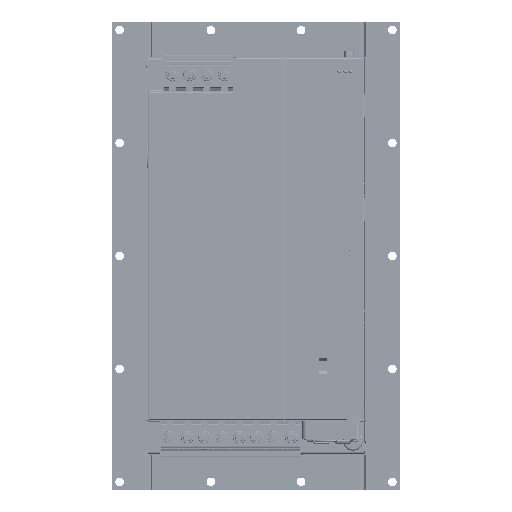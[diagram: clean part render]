
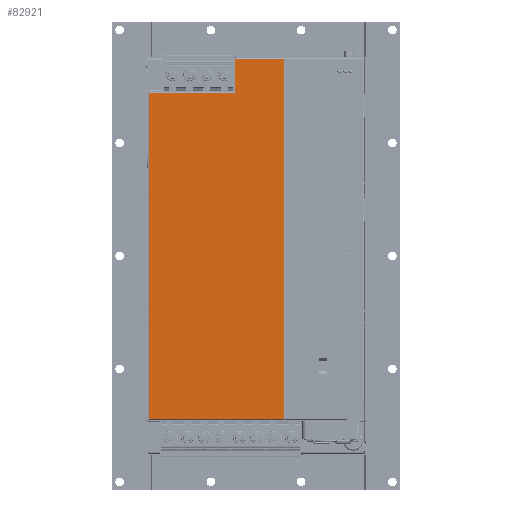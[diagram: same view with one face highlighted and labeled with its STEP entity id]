
A CAD part, front view. The second image highlights one B-rep face of the part: STEP entity #82921.
In plain terms, the highlighted planar face has unit normal (0, -1, 0) as drawn and (0, 1, 0) by its records, which use the part's own axes.
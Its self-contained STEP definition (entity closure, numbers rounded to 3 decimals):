
#15956 = CARTESIAN_POINT ( 'NONE',  ( 22.8, 20., 171.25 ) ) ;
#15960 = DIRECTION ( 'NONE',  ( 0., 0., 1. ) ) ;
#16019 = CARTESIAN_POINT ( 'NONE',  ( -93.55, 20., 171.25 ) ) ;
#16025 = DIRECTION ( 'NONE',  ( 0., 0., 1. ) ) ;
#16132 = DIRECTION ( 'NONE',  ( 0., 0., 1. ) ) ;
#16140 = CARTESIAN_POINT ( 'NONE',  ( 22.8, 20., -140.75 ) ) ;
#16206 = CARTESIAN_POINT ( 'NONE',  ( -18.2, 20., -141.25 ) ) ;
#16224 = DIRECTION ( 'NONE',  ( 0., 0., 1. ) ) ;
#16557 = DIRECTION ( 'NONE',  ( 0., 0., -1. ) ) ;
#16573 = CARTESIAN_POINT ( 'NONE',  ( 23., 20., 171.25 ) ) ;
#16701 = CARTESIAN_POINT ( 'NONE',  ( 24., 20., -111.25 ) ) ;
#16707 = DIRECTION ( 'NONE',  ( -1., 0., 0. ) ) ;
#16711 = CARTESIAN_POINT ( 'NONE',  ( -93.75, 20., 171.25 ) ) ;
#16716 = DIRECTION ( 'NONE',  ( 0., 0., 1. ) ) ;
#16719 = CARTESIAN_POINT ( 'NONE',  ( 24., 20., 170.25 ) ) ;
#16723 = DIRECTION ( 'NONE',  ( 1., 0., 0. ) ) ;
#16726 = CARTESIAN_POINT ( 'NONE',  ( 24., 20., 170.05 ) ) ;
#16731 = DIRECTION ( 'NONE',  ( 1., 0., 0. ) ) ;
#16737 = CARTESIAN_POINT ( 'NONE',  ( 24., 20., -140.55 ) ) ;
#16742 = DIRECTION ( 'NONE',  ( -1., 0., 0. ) ) ;
#16756 = CARTESIAN_POINT ( 'NONE',  ( -19.4, 20., 171.25 ) ) ;
#16772 = CARTESIAN_POINT ( 'NONE',  ( 24., 20., -140.75 ) ) ;
#16776 = DIRECTION ( 'NONE',  ( -1., 0., 0. ) ) ;
#16785 = CARTESIAN_POINT ( 'NONE',  ( 24., 20., -140.55 ) ) ;
#16790 = DIRECTION ( 'NONE',  ( -1., 0., 0. ) ) ;
#16798 = DIRECTION ( 'NONE',  ( 0., 0., 1. ) ) ;
#16803 = CARTESIAN_POINT ( 'NONE',  ( 24., 20., -111.05 ) ) ;
#16808 = DIRECTION ( 'NONE',  ( -1., 0., 0. ) ) ;
#30458 = AXIS2_PLACEMENT_3D ( 'NONE', #139575, #139607, #139617 ) ;
#80077 = EDGE_CURVE ( 'NONE', #186733, #186644, #98299, .T. ) ;
#80087 = EDGE_CURVE ( 'NONE', #185644, #185340, #98311, .T. ) ;
#80112 = EDGE_CURVE ( 'NONE', #186355, #186891, #98350, .T. ) ;
#80123 = EDGE_CURVE ( 'NONE', #186211, #185518, #98358, .T. ) ;
#80243 = EDGE_CURVE ( 'NONE', #185299, #186138, #98508, .T. ) ;
#80246 = EDGE_CURVE ( 'NONE', #153332, #186878, #98510, .T. ) ;
#80249 = EDGE_CURVE ( 'NONE', #185340, #186644, #98513, .T. ) ;
#80251 = EDGE_CURVE ( 'NONE', #186733, #186732, #98516, .T. ) ;
#80257 = EDGE_CURVE ( 'NONE', #186732, #186140, #98523, .T. ) ;
#80263 = EDGE_CURVE ( 'NONE', #186140, #186891, #98527, .T. ) ;
#80265 = EDGE_CURVE ( 'NONE', #186355, #186211, #98529, .T. ) ;
#80272 = EDGE_CURVE ( 'NONE', #185518, #185943, #98535, .T. ) ;
#80277 = EDGE_CURVE ( 'NONE', #185943, #186174, #98460, .T. ) ;
#80281 = EDGE_CURVE ( 'NONE', #186174, #153333, #98542, .T. ) ;
#82921 = ADVANCED_FACE ( 'NONE', ( #150829 ), #139612, .T. ) ;
#86076 = CARTESIAN_POINT ( 'NONE',  ( -20.4, 20., -111.25 ) ) ;
#86091 = CARTESIAN_POINT ( 'NONE',  ( -93.55, 20., 170.25 ) ) ;
#86183 = CARTESIAN_POINT ( 'NONE',  ( -18.2, 20., -140.55 ) ) ;
#86247 = CARTESIAN_POINT ( 'NONE',  ( -93.55, 20., 170.05 ) ) ;
#86428 = CARTESIAN_POINT ( 'NONE',  ( -19.4, 20., -140.55 ) ) ;
#86530 = CARTESIAN_POINT ( 'NONE',  ( -93.55, 20., -111.25 ) ) ;
#86532 = CARTESIAN_POINT ( 'NONE',  ( 23., 20., -140.55 ) ) ;
#86559 = CARTESIAN_POINT ( 'NONE',  ( -19.4, 20., -111.05 ) ) ;
#86588 = CARTESIAN_POINT ( 'NONE',  ( -18.2, 20., -140.75 ) ) ;
#86699 = CARTESIAN_POINT ( 'NONE',  ( 22.8, 20., -140.75 ) ) ;
#98299 = LINE ( 'NONE', #15956, #98304 ) ;
#98304 = VECTOR ( 'NONE', #15960, 1000. ) ;
#98311 = LINE ( 'NONE', #16019, #98315 ) ;
#98315 = VECTOR ( 'NONE', #16025, 1000. ) ;
#98350 = LINE ( 'NONE', #16140, #98353 ) ;
#98353 = VECTOR ( 'NONE', #16132, 1000. ) ;
#98358 = LINE ( 'NONE', #16206, #98363 ) ;
#98363 = VECTOR ( 'NONE', #16224, 1000. ) ;
#98460 = LINE ( 'NONE', #16756, #98543 ) ;
#98508 = LINE ( 'NONE', #16701, #98512 ) ;
#98510 = LINE ( 'NONE', #16711, #98515 ) ;
#98512 = VECTOR ( 'NONE', #16707, 1000. ) ;
#98513 = LINE ( 'NONE', #16719, #98518 ) ;
#98515 = VECTOR ( 'NONE', #16716, 1000. ) ;
#98516 = LINE ( 'NONE', #16726, #98521 ) ;
#98518 = VECTOR ( 'NONE', #16723, 1000. ) ;
#98521 = VECTOR ( 'NONE', #16731, 1000. ) ;
#98523 = LINE ( 'NONE', #16573, #98526 ) ;
#98526 = VECTOR ( 'NONE', #16557, 1000. ) ;
#98527 = LINE ( 'NONE', #16737, #98531 ) ;
#98529 = LINE ( 'NONE', #16772, #98534 ) ;
#98531 = VECTOR ( 'NONE', #16742, 1000. ) ;
#98534 = VECTOR ( 'NONE', #16776, 1000. ) ;
#98535 = LINE ( 'NONE', #16785, #98539 ) ;
#98539 = VECTOR ( 'NONE', #16790, 1000. ) ;
#98542 = LINE ( 'NONE', #16803, #98546 ) ;
#98543 = VECTOR ( 'NONE', #16798, 1000. ) ;
#98546 = VECTOR ( 'NONE', #16808, 1000. ) ;
#116600 = LINE ( 'NONE', #193506, #116616 ) ;
#116616 = VECTOR ( 'NONE', #193496, 1000. ) ;
#116634 = LINE ( 'NONE', #193540, #116642 ) ;
#116642 = VECTOR ( 'NONE', #193562, 1000. ) ;
#116744 = LINE ( 'NONE', #193701, #116753 ) ;
#116750 = LINE ( 'NONE', #193746, #116764 ) ;
#116753 = VECTOR ( 'NONE', #193730, 1000. ) ;
#116764 = VECTOR ( 'NONE', #193735, 1000. ) ;
#119478 = CARTESIAN_POINT ( 'NONE',  ( -93.75, 20., -111.05 ) ) ;
#119525 = CARTESIAN_POINT ( 'NONE',  ( -20.4, 20., -111.05 ) ) ;
#139575 = CARTESIAN_POINT ( 'NONE',  ( 24., 20., 171.25 ) ) ;
#139607 = DIRECTION ( 'NONE',  ( 0., 1., 0. ) ) ;
#139612 = PLANE ( 'NONE',  #30458 ) ;
#139617 = DIRECTION ( 'NONE',  ( 0., 0., 1. ) ) ;
#150829 = FACE_OUTER_BOUND ( 'NONE', #239543, .T. ) ;
#153332 = VERTEX_POINT ( 'NONE', #119478 ) ;
#153333 = VERTEX_POINT ( 'NONE', #119525 ) ;
#164188 = CARTESIAN_POINT ( 'NONE',  ( 22.8, 20., 170.25 ) ) ;
#164283 = CARTESIAN_POINT ( 'NONE',  ( 23., 20., 170.05 ) ) ;
#164285 = CARTESIAN_POINT ( 'NONE',  ( 22.8, 20., 170.05 ) ) ;
#164448 = CARTESIAN_POINT ( 'NONE',  ( -93.75, 20., 170.05 ) ) ;
#164465 = CARTESIAN_POINT ( 'NONE',  ( 22.8, 20., -140.55 ) ) ;
#164486 = CARTESIAN_POINT ( 'NONE',  ( -93.55, 20., -111.05 ) ) ;
#178382 = EDGE_CURVE ( 'NONE', #185299, #153333, #116600, .T. ) ;
#178409 = EDGE_CURVE ( 'NONE', #186138, #186907, #116634, .T. ) ;
#178501 = EDGE_CURVE ( 'NONE', #186878, #185644, #116744, .T. ) ;
#178509 = EDGE_CURVE ( 'NONE', #186907, #153332, #116750, .T. ) ;
#185299 = VERTEX_POINT ( 'NONE', #86076 ) ;
#185340 = VERTEX_POINT ( 'NONE', #86091 ) ;
#185518 = VERTEX_POINT ( 'NONE', #86183 ) ;
#185644 = VERTEX_POINT ( 'NONE', #86247 ) ;
#185943 = VERTEX_POINT ( 'NONE', #86428 ) ;
#186138 = VERTEX_POINT ( 'NONE', #86530 ) ;
#186140 = VERTEX_POINT ( 'NONE', #86532 ) ;
#186174 = VERTEX_POINT ( 'NONE', #86559 ) ;
#186211 = VERTEX_POINT ( 'NONE', #86588 ) ;
#186355 = VERTEX_POINT ( 'NONE', #86699 ) ;
#186644 = VERTEX_POINT ( 'NONE', #164188 ) ;
#186732 = VERTEX_POINT ( 'NONE', #164283 ) ;
#186733 = VERTEX_POINT ( 'NONE', #164285 ) ;
#186878 = VERTEX_POINT ( 'NONE', #164448 ) ;
#186891 = VERTEX_POINT ( 'NONE', #164465 ) ;
#186907 = VERTEX_POINT ( 'NONE', #164486 ) ;
#193496 = DIRECTION ( 'NONE',  ( 0., 0., 1. ) ) ;
#193506 = CARTESIAN_POINT ( 'NONE',  ( -20.4, 20., -111.25 ) ) ;
#193540 = CARTESIAN_POINT ( 'NONE',  ( -93.55, 20., -111.05 ) ) ;
#193562 = DIRECTION ( 'NONE',  ( 0., 0., 1. ) ) ;
#193701 = CARTESIAN_POINT ( 'NONE',  ( -93.55, 20., 170.05 ) ) ;
#193730 = DIRECTION ( 'NONE',  ( 1., 0., 0. ) ) ;
#193735 = DIRECTION ( 'NONE',  ( -1., 0., 0. ) ) ;
#193746 = CARTESIAN_POINT ( 'NONE',  ( -94.75, 20., -111.05 ) ) ;
#208979 = ORIENTED_EDGE ( 'NONE', *, *, #80281, .T. ) ;
#208989 = ORIENTED_EDGE ( 'NONE', *, *, #178382, .F. ) ;
#209000 = ORIENTED_EDGE ( 'NONE', *, *, #80243, .T. ) ;
#209008 = ORIENTED_EDGE ( 'NONE', *, *, #178409, .T. ) ;
#209016 = ORIENTED_EDGE ( 'NONE', *, *, #178509, .T. ) ;
#209025 = ORIENTED_EDGE ( 'NONE', *, *, #80246, .T. ) ;
#209032 = ORIENTED_EDGE ( 'NONE', *, *, #178501, .T. ) ;
#209040 = ORIENTED_EDGE ( 'NONE', *, *, #80087, .T. ) ;
#209046 = ORIENTED_EDGE ( 'NONE', *, *, #80249, .T. ) ;
#209054 = ORIENTED_EDGE ( 'NONE', *, *, #80077, .F. ) ;
#209064 = ORIENTED_EDGE ( 'NONE', *, *, #80251, .T. ) ;
#209074 = ORIENTED_EDGE ( 'NONE', *, *, #80257, .T. ) ;
#209081 = ORIENTED_EDGE ( 'NONE', *, *, #80263, .T. ) ;
#209092 = ORIENTED_EDGE ( 'NONE', *, *, #80112, .F. ) ;
#209100 = ORIENTED_EDGE ( 'NONE', *, *, #80265, .T. ) ;
#209108 = ORIENTED_EDGE ( 'NONE', *, *, #80123, .T. ) ;
#209116 = ORIENTED_EDGE ( 'NONE', *, *, #80272, .T. ) ;
#209128 = ORIENTED_EDGE ( 'NONE', *, *, #80277, .T. ) ;
#239543 = EDGE_LOOP ( 'NONE', ( #208979, #208989, #209000, #209008, #209016, #209025, #209032, #209040, #209046, #209054, #209064, #209074, #209081, #209092, #209100, #209108, #209116, #209128 ) ) ;
